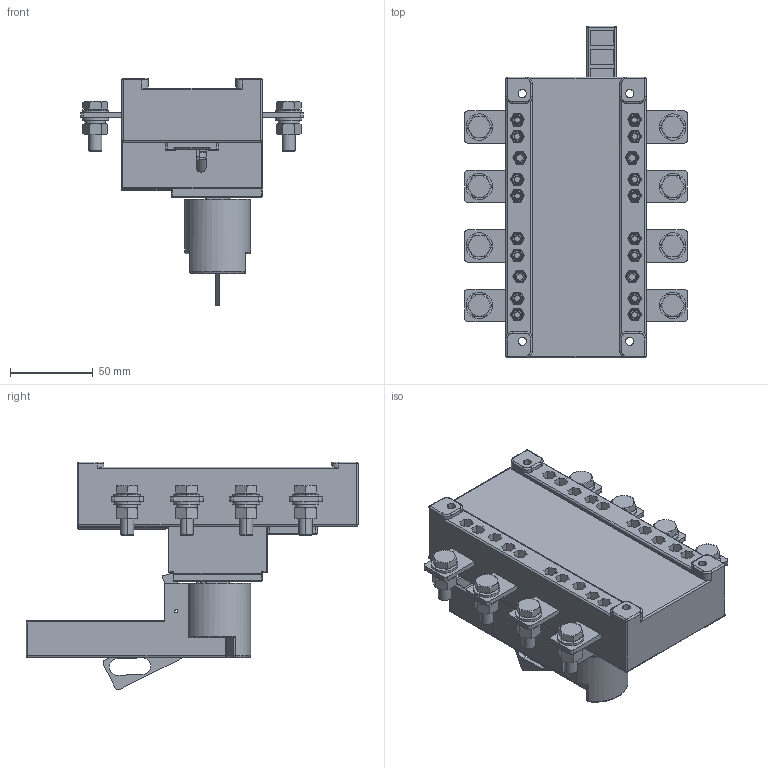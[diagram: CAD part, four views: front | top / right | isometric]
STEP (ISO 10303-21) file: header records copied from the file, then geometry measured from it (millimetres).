
FILE_DESCRIPTION((''),'2;1');
FILE_NAME('ASM0001_SW0001','2026-06-03T13:30:31',('panxiangxiang'),(''),'CREO PARAMETRIC BY PTC INC, 2020354','CREO PARAMETRIC BY PTC INC, 2020354','');
FILE_SCHEMA(('AUTOMOTIVE_DESIGN { 1 0 10303 214 1 1 1 1 }'));
Products named in the file (1): ASM0001_SW0001
Bounding box: 135 x 201 x 137.9 mm (x, y, z)
Volume: 470967.6 mm3; surface area: 226354.5 mm2
Topology: 1 solids, 1 shells, 7558 faces, 20611 edges, 13318 vertices
Faces by surface type: plane 5943, cylinder 834, cone 611, torus 103, sphere 61, bspline 6
Entity records: 252972 total; most frequent: CARTESIAN_POINT 49438, ORIENTED_EDGE 41102, DIRECTION 37075, EDGE_CURVE 20551, VECTOR 16393, LINE 16393, VERTEX_POINT 13318, AXIS2_PLACEMENT_3D 10341
